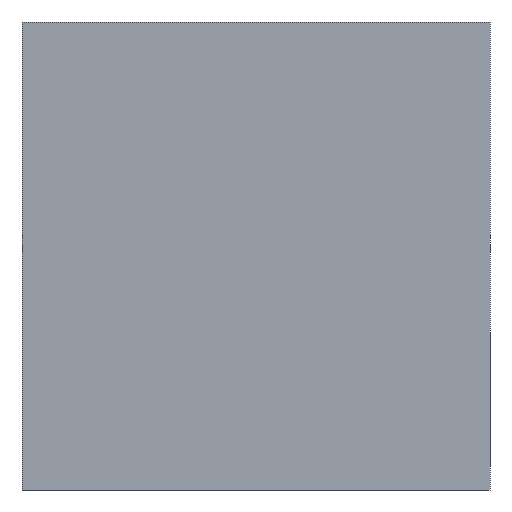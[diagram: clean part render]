
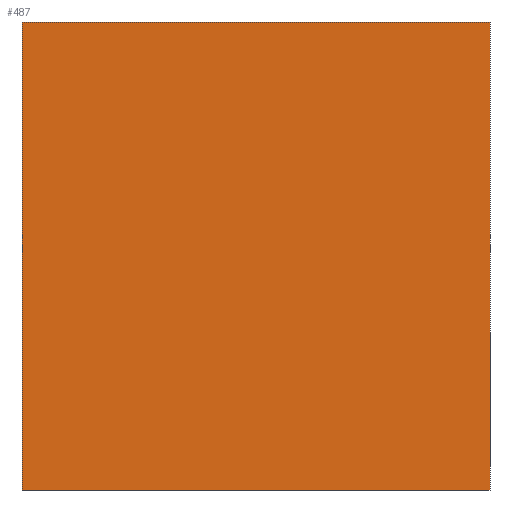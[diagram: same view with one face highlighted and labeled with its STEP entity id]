
A CAD part, front view. The second image highlights one B-rep face of the part: STEP entity #487.
In plain terms, the highlighted planar face has unit normal (0, -1, 0).
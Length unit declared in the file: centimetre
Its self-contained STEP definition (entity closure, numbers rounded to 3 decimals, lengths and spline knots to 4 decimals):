
#4 = CARTESIAN_POINT ( 'NONE',  ( 0., 0., 1000. ) ) ;
#23 = EDGE_CURVE ( 'NONE', #310, #94, #417, .T. ) ;
#24 = EDGE_CURVE ( 'NONE', #371, #310, #420, .T. ) ;
#44 = PLANE ( 'NONE',  #477 ) ;
#48 = EDGE_LOOP ( 'NONE', ( #56, #439, #539, #65 ) ) ;
#50 = VECTOR ( 'NONE', #549, 100. ) ;
#56 = ORIENTED_EDGE ( 'NONE', *, *, #287, .T. ) ;
#65 = ORIENTED_EDGE ( 'NONE', *, *, #367, .T. ) ;
#87 = VECTOR ( 'NONE', #515, 100. ) ;
#94 = VERTEX_POINT ( 'NONE', #431 ) ;
#125 = CARTESIAN_POINT ( 'NONE',  ( 0., 0., 1000. ) ) ;
#127 = CARTESIAN_POINT ( 'NONE',  ( 0., 0., 0. ) ) ;
#167 = LINE ( 'NONE', #125, #50 ) ;
#170 = LINE ( 'NONE', #127, #87 ) ;
#176 = CARTESIAN_POINT ( 'NONE',  ( 0., 0., 1000. ) ) ;
#208 = VECTOR ( 'NONE', #553, 100. ) ;
#251 = CARTESIAN_POINT ( 'NONE',  ( 0., 0., 1000. ) ) ;
#260 = DIRECTION ( 'NONE',  ( 1., 0., 0. ) ) ;
#287 = EDGE_CURVE ( 'NONE', #395, #94, #170, .T. ) ;
#305 = CARTESIAN_POINT ( 'NONE',  ( 1000., 0., 1000. ) ) ;
#310 = VERTEX_POINT ( 'NONE', #499 ) ;
#367 = EDGE_CURVE ( 'NONE', #371, #395, #167, .T. ) ;
#371 = VERTEX_POINT ( 'NONE', #251 ) ;
#390 = VECTOR ( 'NONE', #260, 100. ) ;
#393 = FACE_OUTER_BOUND ( 'NONE', #48, .T. ) ;
#395 = VERTEX_POINT ( 'NONE', #466 ) ;
#417 = LINE ( 'NONE', #305, #208 ) ;
#420 = LINE ( 'NONE', #176, #390 ) ;
#430 = DIRECTION ( 'NONE',  ( 0., 0., 1. ) ) ;
#431 = CARTESIAN_POINT ( 'NONE',  ( 1000., 0., 0. ) ) ;
#439 = ORIENTED_EDGE ( 'NONE', *, *, #23, .F. ) ;
#466 = CARTESIAN_POINT ( 'NONE',  ( 0., 0., 0. ) ) ;
#477 = AXIS2_PLACEMENT_3D ( 'NONE', #4, #519, #430 ) ;
#487 = ADVANCED_FACE ( 'NONE', ( #393 ), #44, .F. ) ;
#499 = CARTESIAN_POINT ( 'NONE',  ( 1000., 0., 1000. ) ) ;
#515 = DIRECTION ( 'NONE',  ( 1., 0., 0. ) ) ;
#519 = DIRECTION ( 'NONE',  ( 0., 1., 0. ) ) ;
#539 = ORIENTED_EDGE ( 'NONE', *, *, #24, .F. ) ;
#549 = DIRECTION ( 'NONE',  ( 0., 0., -1. ) ) ;
#553 = DIRECTION ( 'NONE',  ( 0., 0., -1. ) ) ;
